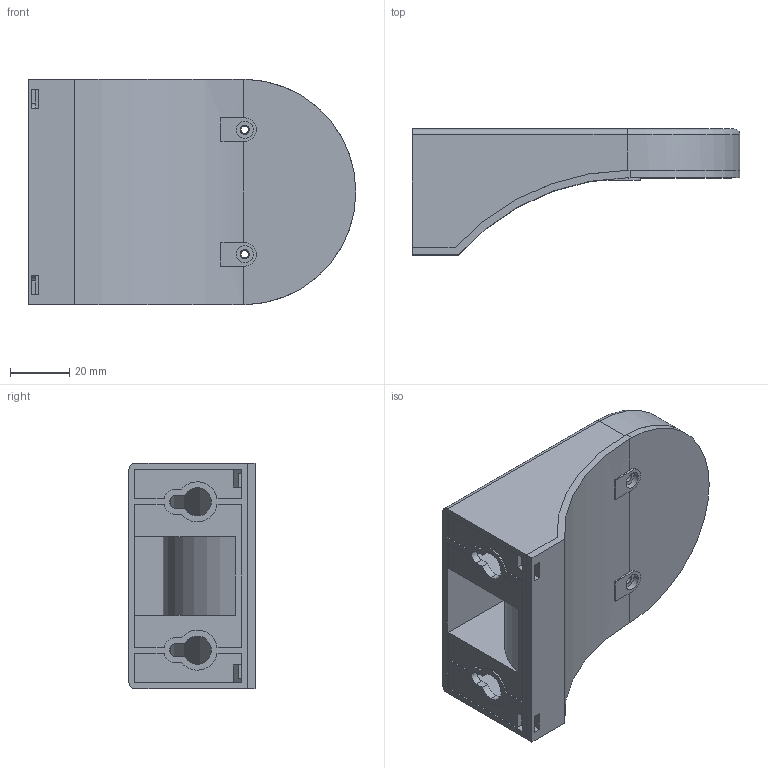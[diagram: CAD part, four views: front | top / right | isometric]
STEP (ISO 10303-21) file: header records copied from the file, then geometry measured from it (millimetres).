
FILE_DESCRIPTION (( 'STEP AP214' ), '1' );
FILE_NAME ('28250200000 - BR50-W.STEP', '2010-07-12T09:38:20', ( ' ' ), ( ' ' ), 'SwSTEP 2.0', 'SolidWorks 2010', '' );
FILE_SCHEMA (( 'AUTOMOTIVE_DESIGN' ));
Length unit declared in the file: millimetre
Products named in the file (1): 28250200000 - BR50-W
Bounding box: 110.5 x 42.5 x 76 mm (x, y, z)
Surface area: 47442.9 mm2 (no closed solid volume)
Topology: 0 solids, 3 shells, 135 faces, 435 edges, 298 vertices
Faces by surface type: plane 74, cylinder 60, torus 1
Entity records: 6386 total; most frequent: CARTESIAN_POINT 981, DIRECTION 820, ORIENTED_EDGE 760, EDGE_CURVE 435, VERTEX_POINT 298, VECTOR 298, LINE 298, AXIS2_PLACEMENT_3D 261
